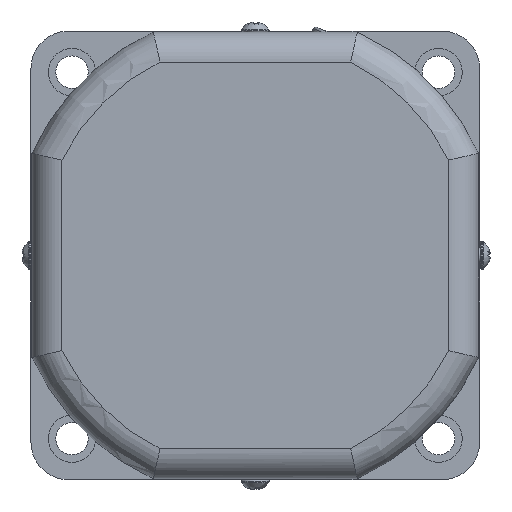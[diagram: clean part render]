
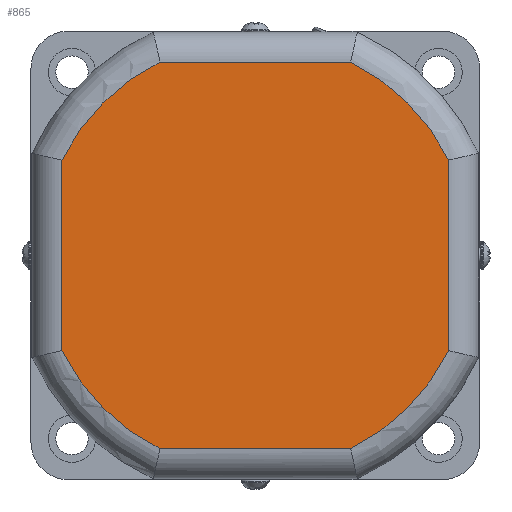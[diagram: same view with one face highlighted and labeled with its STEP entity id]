
A CAD part, left-side view. The second image highlights one B-rep face of the part: STEP entity #865.
In plain terms, the highlighted planar face has unit normal (-1, 0, 0).
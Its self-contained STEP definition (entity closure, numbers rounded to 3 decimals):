
#274=CARTESIAN_POINT('',(-23.,-38.8,19.108));
#275=VERTEX_POINT('',#274);
#302=CARTESIAN_POINT('',(-23.,-19.108,38.8));
#303=VERTEX_POINT('',#302);
#321=CARTESIAN_POINT('',(-23.,0.,0.0));
#322=DIRECTION('',(1.,0.,0.));
#323=DIRECTION('',(0.,-0.707,0.707));
#324=AXIS2_PLACEMENT_3D('',#321,#322,#323);
#325=CIRCLE('',#324,43.25);
#326=EDGE_CURVE('',#303,#275,#325,.T.);
#338=CARTESIAN_POINT('',(-23.,19.108,38.8));
#339=VERTEX_POINT('',#338);
#357=CARTESIAN_POINT('',(-23.,19.108,38.8));
#358=DIRECTION('',(0.0,-1.0,0.0));
#359=VECTOR('',#358,38.216);
#360=LINE('',#357,#359);
#361=EDGE_CURVE('',#339,#303,#360,.T.);
#380=CARTESIAN_POINT('',(-23.,-38.8,-19.108));
#381=VERTEX_POINT('',#380);
#406=CARTESIAN_POINT('',(-23.,-38.8,19.108));
#407=DIRECTION('',(0.0,0.0,-1.0));
#408=VECTOR('',#407,38.216);
#409=LINE('',#406,#408);
#410=EDGE_CURVE('',#275,#381,#409,.T.);
#422=CARTESIAN_POINT('',(-23.,38.8,19.108));
#423=VERTEX_POINT('',#422);
#441=CARTESIAN_POINT('',(-23.,0.,0.0));
#442=DIRECTION('',(1.,0.,0.));
#443=DIRECTION('',(0.,0.707,0.707));
#444=AXIS2_PLACEMENT_3D('',#441,#442,#443);
#445=CIRCLE('',#444,43.25);
#446=EDGE_CURVE('',#423,#339,#445,.T.);
#466=CARTESIAN_POINT('',(-23.,-19.108,-38.8));
#467=VERTEX_POINT('',#466);
#493=CARTESIAN_POINT('',(-23.,0.,0.0));
#494=DIRECTION('',(1.0,0.,0.));
#495=DIRECTION('',(0.,-0.707,-0.707));
#496=AXIS2_PLACEMENT_3D('',#493,#494,#495);
#497=CIRCLE('',#496,43.25);
#498=EDGE_CURVE('',#381,#467,#497,.T.);
#510=CARTESIAN_POINT('',(-23.,38.8,-19.108));
#511=VERTEX_POINT('',#510);
#529=CARTESIAN_POINT('',(-23.,38.8,-19.108));
#530=DIRECTION('',(0.0,0.0,1.0));
#531=VECTOR('',#530,38.216);
#532=LINE('',#529,#531);
#533=EDGE_CURVE('',#511,#423,#532,.T.);
#550=CARTESIAN_POINT('',(-23.,19.108,-38.8));
#551=VERTEX_POINT('',#550);
#578=CARTESIAN_POINT('',(-23.,-19.108,-38.8));
#579=DIRECTION('',(0.0,1.0,0.0));
#580=VECTOR('',#579,38.216);
#581=LINE('',#578,#580);
#582=EDGE_CURVE('',#467,#551,#581,.T.);
#593=CARTESIAN_POINT('',(-23.,0.,0.0));
#594=DIRECTION('',(1.0,0.,0.));
#595=DIRECTION('',(0.,0.707,-0.707));
#596=AXIS2_PLACEMENT_3D('',#593,#594,#595);
#597=CIRCLE('',#596,43.25);
#598=EDGE_CURVE('',#551,#511,#597,.T.);
#850=CARTESIAN_POINT('',(-23.,0.,0.));
#851=DIRECTION('',(1.0,0.0,0.0));
#852=DIRECTION('',(0.0,-1.0,0.0));
#853=AXIS2_PLACEMENT_3D('',#850,#851,#852);
#854=PLANE('',#853);
#855=ORIENTED_EDGE('',*,*,#582,.F.);
#856=ORIENTED_EDGE('',*,*,#498,.F.);
#857=ORIENTED_EDGE('',*,*,#410,.F.);
#858=ORIENTED_EDGE('',*,*,#326,.F.);
#859=ORIENTED_EDGE('',*,*,#361,.F.);
#860=ORIENTED_EDGE('',*,*,#446,.F.);
#861=ORIENTED_EDGE('',*,*,#533,.F.);
#862=ORIENTED_EDGE('',*,*,#598,.F.);
#863=EDGE_LOOP('',(#855,#856,#857,#858,#859,#860,#861,#862));
#864=FACE_OUTER_BOUND('',#863,.T.);
#865=ADVANCED_FACE('',(#864),#854,.F.);
